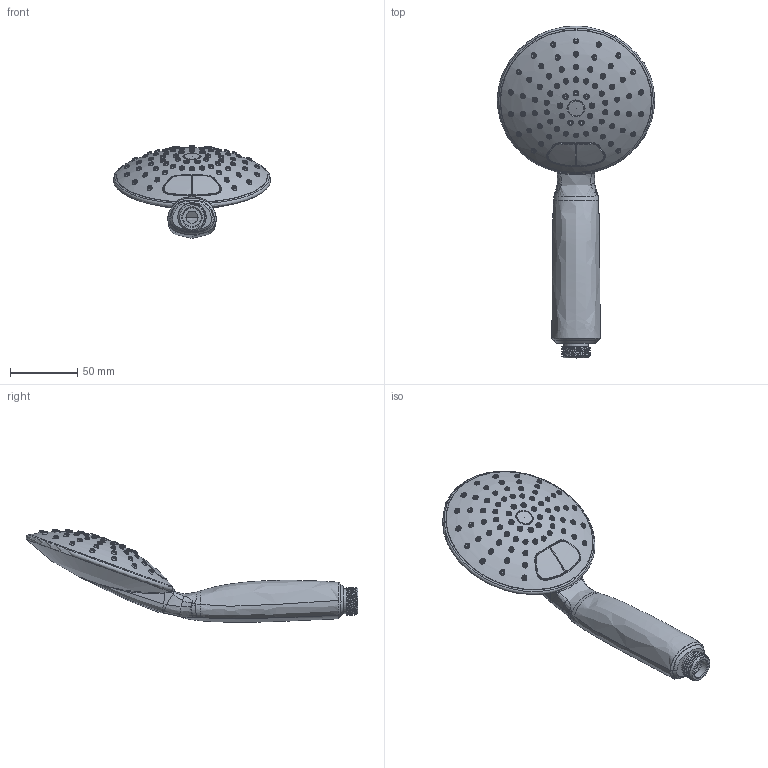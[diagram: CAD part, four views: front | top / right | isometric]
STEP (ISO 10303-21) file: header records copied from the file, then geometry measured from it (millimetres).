
FILE_DESCRIPTION(/* description */ (''),/* implementation_level */ '2;1');
FILE_NAME(/* name */ 'c:\worker\convert-fusion-r05\tmp\job-1\22\output\files\09ddd0dc-8a68-409e-a00d-5179e7c47e10\a3de4ccc-24a2-484c-b4d3-7eefaf1811d2.stp',/* time_stamp */ '2020-07-02T07:01:20+00:00',/* author */ (''),/* organization */ (''),/* preprocessor_version */ 'ST-DEVELOPER v18.1',/* originating_system */ 'Autodesk Translation Framework v9.3.0.1241',/* authorisation */ '');
FILE_SCHEMA (('AUTOMOTIVE_DESIGN { 1 0 10303 214 3 1 1 }'));
Products named in the file (1): !Wapama-R
Bounding box: 116.7 x 246.42 x 68.77 mm (x, y, z)
Volume: 151151.7 mm3; surface area: 126241.3 mm2
Topology: 11 solids, 11 shells, 1543 faces, 3977 edges, 2613 vertices
Faces by surface type: plane 470, cone 302, cylinder 281, bspline 275, sphere 167, torus 48
Full cylindrical faces by diameter (mm): 1.7 x9, 1.8 x2, 2.8 x1, 3.2 x2, 3.4 x2, 4 x9, 4.2 x7, 4.5 x1, 5.8 x1, 6.2 x1, 7.6 x1, 8.8 x1, 9 x1, 10.3 x1, 10.6 x1, 10.8 x1, 12.4 x1, 12.82 x1, 14 x3, 14.4 x1, 14.6 x1, 16.8 x1, 18.4 x1, 20.955 x3, 28.4 x1, 30.5 x1, 31.5 x1, 33.5 x1, 33.7 x1, 35.5 x2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
Entity records: 101322 total; most frequent: CARTESIAN_POINT 65803, ORIENTED_EDGE 7950, DIRECTION 6204, EDGE_CURVE 3975, VERTEX_POINT 2613, AXIS2_PLACEMENT_3D 2335, EDGE_LOOP 2000, FACE_OUTER_BOUND 1543
